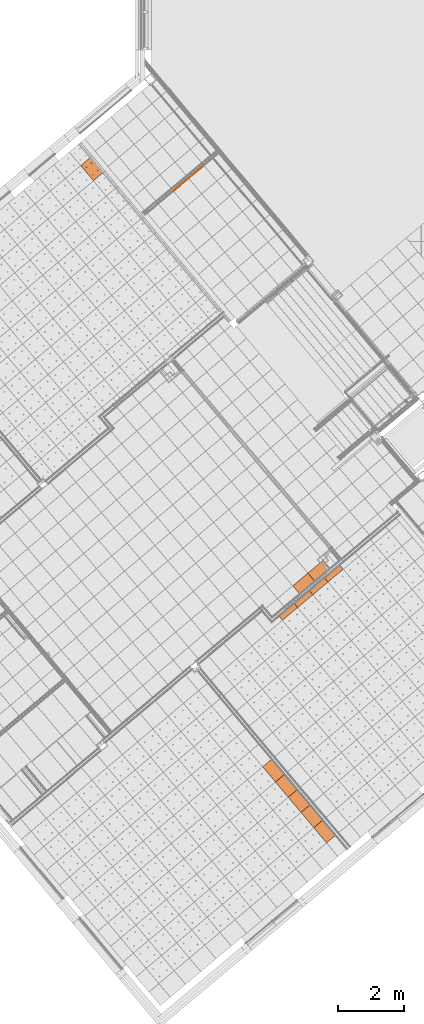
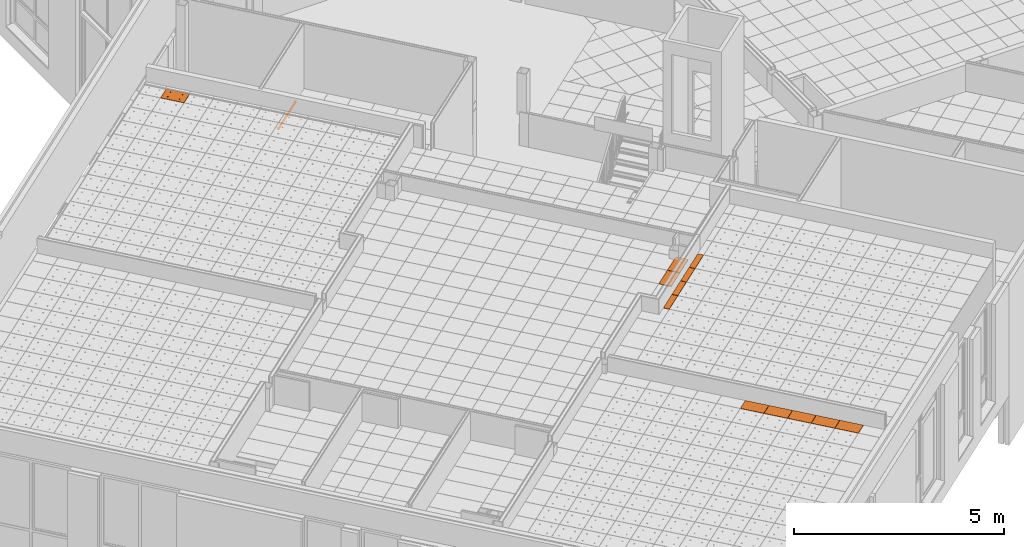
# One storey, part 213 of 338: 14 proxies, 5 elements without a shape of their own.
"""IFC2X3 building model written with IfcOpenShell, lengths in millimetres."""

import ifcopenshell
import ifcopenshell.guid

model = None  # the IFC model being written
_history = None  # IfcOwnerHistory: only IFC2X3 demands one
_inside = {}  # id of a spatial element -> (the spatial element, [elements in it])
_under = {}  # id of a project, library or spatial element -> (it, [spatial elements below it])
_declared = {}  # id of a project -> (the project, [libraries it declares])
_typed = {}  # id of a type object -> (the type object, [elements of that type])
_made_of = {}  # id of a material, layer set ... -> (it, [elements and type objects made of it])


def new_model(schema):
    """Start an empty IFC model of exactly this schema.

    Asked for "IFC4X3", IfcOpenShell would pick the latest addendum, in which some entities
    have other attributes; the version numbers below select the first issue.
    IFC2X3 requires an IfcOwnerHistory on every rooted entity: one is made here for all.
    """
    global model, _history
    if schema == "IFC4X3":
        model = ifcopenshell.file(schema_version=(4, 3, 0, 0))
    else:
        model = ifcopenshell.file(schema=schema)
    _inside.clear()
    _under.clear()
    _declared.clear()
    _typed.clear()
    _made_of.clear()
    _history = None
    if model.schema == "IFC2X3":
        org = make("IfcOrganization", Name="unknown")
        user = make(
            "IfcPersonAndOrganization",
            ThePerson=make("IfcPerson", FamilyName="unknown"),
            TheOrganization=org,
        )
        app = make(
            "IfcApplication",
            ApplicationDeveloper=org,
            Version="unknown",
            ApplicationFullName="unknown",
            ApplicationIdentifier="unknown",
        )
        _history = make(
            "IfcOwnerHistory",
            OwningUser=user,
            OwningApplication=app,
            ChangeAction="ADDED",
            CreationDate=0,
        )
    return model


def make(cls, **values):
    """One entity of the class cls with the attributes given. An attribute that is None is left unset."""
    return model.create_entity(
        cls, **{name: value for name, value in values.items() if value is not None}
    )


def entity(cls, *values):
    """Any entity or typed value of the class cls, its attributes in the order of the schema. None: left unset."""
    e = model.create_entity(cls)
    for i, value in enumerate(values):
        if value is not None:
            e[i] = value
    return e


def rooted(cls, **values):
    """An entity with a GlobalId (a new one), such as an element, a storey or a relation."""
    return make(cls, GlobalId=ifcopenshell.guid.new(), OwnerHistory=_history, **values)


def si_unit(unit_type, name, prefix=None):
    """IfcSIUnit, for example si_unit("LENGTHUNIT", "METRE", prefix="MILLI")."""
    return make("IfcSIUnit", UnitType=unit_type, Prefix=prefix, Name=name)


def converted_unit(unit_type, name, factor, base, dimensions=None, offset=None):
    """IfcConversionBasedUnit, such as the inch: factor (a typed value) times the base unit."""
    return make(
        "IfcConversionBasedUnit"
        if offset is None
        else "IfcConversionBasedUnitWithOffset",
        ConversionOffset=offset,
        Dimensions=None
        if dimensions is None
        else entity("IfcDimensionalExponents", *dimensions),
        UnitType=unit_type,
        Name=name,
        ConversionFactor=make(
            "IfcMeasureWithUnit", ValueComponent=factor, UnitComponent=base
        ),
    )


def derived_unit(unit_type, elements):
    """IfcDerivedUnit: a product of units, each with its exponent."""
    return make(
        "IfcDerivedUnit",
        Elements=[
            make("IfcDerivedUnitElement", Unit=unit, Exponent=power)
            for unit, power in elements
        ],
        UnitType=unit_type,
    )


def money_unit(currency):
    """IfcMonetaryUnit."""
    return make("IfcMonetaryUnit", Currency=currency)


def assignment(units):
    """IfcUnitAssignment: the units of a project."""
    return None if units is None else make("IfcUnitAssignment", Units=units)


def point(xyz):
    """IfcCartesianPoint."""
    return None if xyz is None else make("IfcCartesianPoint", Coordinates=xyz)


def direction(xyz):
    """IfcDirection."""
    return None if xyz is None else make("IfcDirection", DirectionRatios=xyz)


def frame(location, z_axis=None, x_axis=None):
    """IfcAxis2Placement3D, a coordinate frame: its origin and axes. An axis left out is left unset."""
    return make(
        "IfcAxis2Placement3D",
        Location=point(location),
        Axis=direction(z_axis),
        RefDirection=direction(x_axis),
    )


def origin_with_axes():
    """The frame at (0, 0, 0) with the z axis (0, 0, 1) and the x axis (1, 0, 0) written out."""
    return frame((0.0, 0.0, 0.0), z_axis=(0.0, 0.0, 1.0), x_axis=(1.0, 0.0, 0.0))


def place(relative_to, where):
    """IfcLocalPlacement: puts the frame where relative to a parent placement (None: the world)."""
    return make(
        "IfcLocalPlacement", PlacementRelTo=relative_to, RelativePlacement=where
    )


def context(
    kind, dimensions, precision=None, world=None, true_north=None, identifier=None
):
    """IfcGeometricRepresentationContext, for example the 3D "Model" context."""
    return make(
        "IfcGeometricRepresentationContext",
        ContextIdentifier=identifier,
        ContextType=kind,
        CoordinateSpaceDimension=dimensions,
        Precision=precision,
        WorldCoordinateSystem=world,
        TrueNorth=true_north,
    )


def subcontext(parent, identifier, kind, view, scale=None):
    """IfcGeometricRepresentationSubContext, for example "Body" below "Model"."""
    return make(
        "IfcGeometricRepresentationSubContext",
        ContextIdentifier=identifier,
        ContextType=kind,
        ParentContext=parent,
        TargetScale=scale,
        TargetView=view,
    )


def project(units=None, contexts=None):
    """IfcProject with its units and contexts."""
    return rooted(
        "IfcProject",
        Name="project",
        RepresentationContexts=contexts,
        UnitsInContext=assignment(units),
    )


def spatial(cls, under=None, at=None, **own):
    """A site, building, storey or space (cls), placed at a placement, below another one or the project."""
    s = rooted(cls, ObjectPlacement=at, **own)
    if under is not None:
        _under.setdefault(under.id(), (under, []))[1].append(s)
    return s


def faces_of(points, faces, orient=None, outer=None):
    """IfcFace entities. A face is a list of loops; a loop is a list of indices into points, from 0.

    orient and outer hold one flag for each loop. By default every Orientation is true, the
    first loop of a face is its IfcFaceOuterBound and the others are IfcFaceBound.
    """
    made = []
    for i, loops in enumerate(faces):
        bounds = []
        for j, loop in enumerate(loops):
            is_outer = j == 0 if outer is None else outer[i][j]
            bounds.append(
                make(
                    "IfcFaceOuterBound" if is_outer else "IfcFaceBound",
                    Bound=make("IfcPolyLoop", Polygon=[points[k] for k in loop]),
                    Orientation=True if orient is None else orient[i][j],
                )
            )
        made.append(make("IfcFace", Bounds=bounds))
    return made


def faceted_brep(points, faces, orient=None, outer=None, voids=None):
    """IfcFacetedBrep: a solid bounded by flat faces; with voids (closed shells), ...WithVoids."""
    shared = [point(p) for p in points]
    hull = make("IfcClosedShell", CfsFaces=faces_of(shared, faces, orient, outer))
    if voids is None:
        return make("IfcFacetedBrep", Outer=hull)
    return make(
        "IfcFacetedBrepWithVoids",
        Outer=hull,
        Voids=[
            make(cls, CfsFaces=faces_of(shared, fs, o, b)) for cls, fs, o, b in voids
        ],
    )


def shape(context_of_items, identifier, shape_type, items):
    """IfcShapeRepresentation: the items that make up one representation, for example the "Body"."""
    return make(
        "IfcShapeRepresentation",
        ContextOfItems=context_of_items,
        RepresentationIdentifier=identifier,
        RepresentationType=shape_type,
        Items=items,
    )


def source(mapping_origin, context_of_items, identifier, shape_type, items):
    """IfcRepresentationMap: a shape defined once, which mapped items show again and again."""
    return make(
        "IfcRepresentationMap",
        MappingOrigin=mapping_origin,
        MappedRepresentation=shape(context_of_items, identifier, shape_type, items),
    )


def transform(
    local_origin,
    x_axis=None,
    y_axis=None,
    z_axis=None,
    scale=None,
    scale2=None,
    scale3=None,
    uniform=True,
):
    """IfcCartesianTransformationOperator3D, or its non-uniform kind. x_axis, y_axis, z_axis: its Axis1, 2, 3."""
    if uniform:
        return make(
            "IfcCartesianTransformationOperator3D",
            Axis1=direction(x_axis),
            Axis2=direction(y_axis),
            LocalOrigin=point(local_origin),
            Scale=scale,
            Axis3=direction(z_axis),
        )
    return make(
        "IfcCartesianTransformationOperator3DnonUniform",
        Axis1=direction(x_axis),
        Axis2=direction(y_axis),
        LocalOrigin=point(local_origin),
        Scale=scale,
        Axis3=direction(z_axis),
        Scale2=scale2,
        Scale3=scale3,
    )


def mapped(mapping_source, mapping_target):
    """IfcMappedItem: shows the shape of a source again, moved by a transform."""
    return make(
        "IfcMappedItem", MappingSource=mapping_source, MappingTarget=mapping_target
    )


def material(Name=None, Category=None):
    """IfcMaterial."""
    return make("IfcMaterial", Name=Name, Category=Category)


def made_of(thing, what):
    """Note that an element or type object is made of a material, layer set ...; save() writes the relation."""
    if what is not None:
        _made_of.setdefault(what.id(), (what, []))[1].append(thing)
    return thing


def type_object(cls, material=None, **own):
    """A type object (cls), such as IfcWallType, which elements share."""
    return made_of(rooted(cls, **own), material)


def type_shapes(of_type, sources):
    """Give a type object the sources (RepresentationMaps) that its elements show as mapped items."""
    of_type.RepresentationMaps = sources


def element(
    cls,
    number,
    at=None,
    inside=None,
    cuts=None,
    type_object=None,
    material=None,
    context=None,
    identifier="Body",
    shape_type=None,
    held_by="IfcProductDefinitionShape",
    body=None,
    shapes=None,
    **own,
):
    """One element of the class cls, such as IfcWall. Its Tag is "e" and its number.

    at: its placement. inside: the storey or other place that contains it. cuts: it is an
    opening in that element (IfcRelVoidsElement). A single representation is given by context,
    identifier, shape_type and body (its items); several are given by shapes. held_by: the class
    of the entity that holds the representations. save() writes the other relations.
    """
    e = rooted(cls, Tag="e%d" % number, ObjectPlacement=at, **own)
    if body is not None:
        shapes = [shape(context, identifier, shape_type, body)]
    if shapes is not None:
        e.Representation = make(held_by, Representations=shapes)
    if inside is not None:
        _inside.setdefault(inside.id(), (inside, []))[1].append(e)
    if cuts is not None:
        rooted(
            "IfcRelVoidsElement", RelatingBuildingElement=cuts, RelatedOpeningElement=e
        )
    if type_object is not None:
        _typed.setdefault(type_object.id(), (type_object, []))[1].append(e)
    return made_of(e, material)


def aggregate(whole, parts):
    """IfcRelAggregates: a whole, such as a stair, and the parts it consists of."""
    return rooted("IfcRelAggregates", RelatingObject=whole, RelatedObjects=parts)


def save(model, path):
    """Write the relations noted so far, then the file.

    IfcRelAggregates (storeys below a building ...), IfcRelContainedInSpatialStructure (elements
    in a storey), IfcRelDefinesByType, IfcRelAssociatesMaterial and IfcRelDeclares: one each for
    every whole, place, type object, material and project.
    """
    for whole, parts in _under.values():
        aggregate(whole, parts)
    for where, things in _inside.values():
        rooted(
            "IfcRelContainedInSpatialStructure",
            RelatedElements=things,
            RelatingStructure=where,
        )
    for kind, things in _typed.values():
        rooted("IfcRelDefinesByType", RelatedObjects=things, RelatingType=kind)
    for what, things in _made_of.values():
        rooted("IfcRelAssociatesMaterial", RelatedObjects=things, RelatingMaterial=what)
    for by, libraries in _declared.values():
        rooted("IfcRelDeclares", RelatingContext=by, RelatedDefinitions=libraries)
    model.write(path)


model = new_model("IFC2X3")

# Units and contexts
model_context = context("Model", 3, precision=0.01, world=origin_with_axes(), true_north=direction((0.0, 1.0)))
plan_context = context("Plan", 3, precision=0.01, world=origin_with_axes(), true_north=direction((0.0, 1.0)))
body_context = subcontext(model_context, "Body", "Model", "MODEL_VIEW")
ifc_project = project(units=[si_unit("LENGTHUNIT", "METRE", prefix="MILLI"), si_unit("AREAUNIT", "SQUARE_METRE"), si_unit("VOLUMEUNIT", "CUBIC_METRE"), converted_unit("PLANEANGLEUNIT", "DEGREE", entity("IfcPlaneAngleMeasure", 0.0174532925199), si_unit("PLANEANGLEUNIT", "RADIAN"), dimensions=[0, 0, 0, 0, 0, 0, 0]), money_unit("EUR"), converted_unit("TIMEUNIT", "Year", entity("IfcTimeMeasure", 31556926.0), si_unit("TIMEUNIT", "SECOND"), dimensions=[0, 0, 1, 0, 0, 0, 0]), si_unit("MASSUNIT", "GRAM", prefix="KILO"), si_unit("THERMODYNAMICTEMPERATUREUNIT", "DEGREE_CELSIUS"), si_unit("LUMINOUSINTENSITYUNIT", "LUMEN"), si_unit("ENERGYUNIT", "JOULE", prefix="MEGA"), derived_unit("THERMALCONDUCTANCEUNIT", [(si_unit("POWERUNIT", "WATT"), 1), (si_unit("LENGTHUNIT", "METRE"), -1), (si_unit("THERMODYNAMICTEMPERATUREUNIT", "KELVIN"), -1)]), derived_unit("SPECIFICHEATCAPACITYUNIT", [(si_unit("ENERGYUNIT", "JOULE"), 1), (si_unit("MASSUNIT", "GRAM", prefix="KILO"), -1), (si_unit("THERMODYNAMICTEMPERATUREUNIT", "KELVIN"), -1)]), derived_unit("MASSDENSITYUNIT", [(si_unit("MASSUNIT", "GRAM", prefix="KILO"), 1), (si_unit("VOLUMEUNIT", "CUBIC_METRE"), -1)])], contexts=[model_context, plan_context])

# Site, building, storey
site_placement = place(None, origin_with_axes())
site = spatial("IfcSite", under=ifc_project, at=site_placement, Name="Fortuinstraat Woensdrecht", CompositionType="ELEMENT")
building_placement = place(site_placement, origin_with_axes())
building = spatial("IfcBuilding", under=site, at=building_placement, Name="IKC Fortuna", CompositionType="ELEMENT")
storey_placement = place(building_placement, origin_with_axes())
storey = spatial("IfcBuildingStorey", under=building, at=storey_placement, Name="00 begane grond", CompositionType="ELEMENT", Elevation=0.0)

# Covering, proxies
covering_type = type_object("IfcCoveringType", Name="Curtain Wall Type", PredefinedType="CEILING")
covering_1_placement = place(storey_placement, frame((17937.1227498, -4186.27868692, 4660.0), z_axis=(0.0, 0.0, 1.0), x_axis=(1.0, 0.0, 0.0)))
covering_1 = element("IfcCovering", 1, at=covering_1_placement, inside=storey, type_object=covering_type, Name="45_Plafondafwerking_P02", PredefinedType="CEILING")
ifc_material = material(Name="Gipsplaat")
building_element_proxy_type_1 = type_object("IfcBuildingElementProxyType", Name="Distinct Panel 600 x 320 x 20", PredefinedType="NOTDEFINED")
shared_shape_1 = source(origin_with_axes(), body_context, "Body", "Brep", [
    faceted_brep([(2.49999748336, 2.50000538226, -10.0), (597.49999957, 2.49999833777, -10.0), (597.49999957, 2.49999833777, 10.0), (2.49999748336, 2.50000538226, 10.0), (2.49999356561, 317.228355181, -10.0), (597.500002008, 317.228355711, -10.0), (597.500002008, 317.228355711, 10.0), (2.49999356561, 317.228355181, 10.0)], [[[0, 1, 2, 3]], [[0, 4, 5, 1]], [[1, 5, 6, 2]], [[3, 2, 6, 7]], [[4, 0, 3, 7]], [[5, 4, 7, 6]]]),
])
type_shapes(building_element_proxy_type_1, [shared_shape_1])
proxy_1_placement = place(covering_1_placement, frame((459.626567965, 385.672682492, 0.0), z_axis=(0.0, 0.0, 1.0), x_axis=(1.0, 0.0, 0.0)))
proxy_1 = element("IfcBuildingElementProxy", 2, at=proxy_1_placement, type_object=building_element_proxy_type_1, material=ifc_material, Name="__Panel-D", context=body_context, shape_type="MappedRepresentation", body=[
    mapped(shared_shape_1, transform((127.05455322, 315.299364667, 0.0), x_axis=(-0.766044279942, -0.642787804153, 0.0), y_axis=(0.642787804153, -0.766044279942, 0.0), z_axis=(0.0, 0.0, 1.0))),
])
proxy_2_placement = place(covering_1_placement, frame((919.253134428, 771.345366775, 0.0), z_axis=(0.0, 0.0, 1.0), x_axis=(1.0, 0.0, 0.0)))
proxy_2 = element("IfcBuildingElementProxy", 3, at=proxy_2_placement, type_object=building_element_proxy_type_1, material=ifc_material, Name="__Panel-D", context=body_context, shape_type="MappedRepresentation", body=[
    mapped(shared_shape_1, transform((127.054554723, 315.299362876, 0.0), x_axis=(-0.766044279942, -0.642787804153, 0.0), y_axis=(0.642787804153, -0.766044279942, 0.0), z_axis=(0.0, 0.0, 1.0))),
])
aggregate(covering_1, [proxy_1, proxy_2])

covering_2_placement = place(storey_placement, frame((15581.2998521, 5435.5548951, 3210.0), z_axis=(0.0, 0.0, 1.0), x_axis=(1.0, 0.0, 0.0)))
covering_2 = element("IfcCovering", 4, at=covering_2_placement, inside=storey, type_object=covering_type, Name="45_Plafondafwerking_P02 v", PredefinedType="CEILING")
building_element_proxy_type_2 = type_object("IfcBuildingElementProxyType", Name="Distinct Panel 600 x 12 x 20", PredefinedType="NOTDEFINED")
shared_shape_2 = source(origin_with_axes(), body_context, "Body", "Brep", [
    faceted_brep([(-597.499999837, 590.45458423, -10.0), (-597.499999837, 590.45458423, 10.0), (-597.499997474, 597.499999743, 10.0), (-597.499997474, 597.499999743, -10.0), (-2.50000445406, 590.454582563, -10.0), (-2.50000445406, 590.454582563, 10.0), (-2.50000209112, 597.499998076, 10.0), (-2.50000209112, 597.499998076, -10.0)], [[[0, 1, 2, 3]], [[4, 5, 1, 0]], [[1, 5, 6, 2]], [[3, 2, 6, 7]], [[0, 3, 7, 4]], [[7, 6, 5, 4]]]),
])
type_shapes(building_element_proxy_type_2, [shared_shape_2])
proxy_3_placement = place(covering_2_placement, frame((-881.524288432, 2792.77528629, 0.0), z_axis=(0.0, 0.0, 1.0), x_axis=(1.0, 0.0, 0.0)))
proxy_3 = element("IfcBuildingElementProxy", 5, at=proxy_3_placement, type_object=building_element_proxy_type_2, material=ifc_material, Name="__Panel-D", context=body_context, shape_type="MappedRepresentation", body=[
    mapped(shared_shape_2, transform((-611.614626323, 262.176638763, 0.0), x_axis=(-0.766044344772, -0.642787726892, 0.0), y_axis=(0.642787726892, -0.766044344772, 0.0), z_axis=(0.0, 0.0, 1.0))),
])
proxy_4_placement = place(covering_2_placement, frame((-421.897681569, 3178.44792243, 0.0), z_axis=(0.0, 0.0, 1.0), x_axis=(1.0, 0.0, 0.0)))
proxy_4 = element("IfcBuildingElementProxy", 6, at=proxy_4_placement, type_object=building_element_proxy_type_2, material=ifc_material, Name="__Panel-D", context=body_context, shape_type="MappedRepresentation", body=[
    mapped(shared_shape_2, transform((-611.614626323, 262.176638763, 0.0), x_axis=(-0.766044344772, -0.642787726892, 0.0), y_axis=(0.642787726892, -0.766044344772, 0.0), z_axis=(0.0, 0.0, 1.0))),
])
aggregate(covering_2, [proxy_3, proxy_4])

# Covering, proxy
covering_3_placement = place(storey_placement, frame((15863.124366, 4456.31398675, 4619.99995334), z_axis=(0.0, 0.0, 1.0), x_axis=(1.0, 0.0, 0.0)))
covering_3 = element("IfcCovering", 7, at=covering_3_placement, inside=storey, type_object=covering_type, Name="45_Plafondafwerking_P01", PredefinedType="CEILING")
building_element_proxy_type_3 = type_object("IfcBuildingElementProxyType", Name="Main Panel 401 x 600 x 20", PredefinedType="NOTDEFINED")
shared_shape_3 = source(origin_with_axes(), body_context, "Body", "Brep", [
    faceted_brep([(2.49999200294, 2.49999800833, -10.0), (200.390796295, 2.49999800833, -10.0), (200.390796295, 2.49999800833, 10.0), (2.49999200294, 2.49999800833, 10.0), (2.49999200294, 299.999999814, -10.0), (2.49999200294, 597.50000162, -10.0), (200.390796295, 597.50000162, -10.0), (398.281600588, 597.50000162, -10.0), (398.281600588, 299.999999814, -10.0), (398.281600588, 2.49999800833, -10.0), (111.423081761, 450.062330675, -10.0), (111.119914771, 452.647116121, -10.0), (110.522792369, 455.113489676, -10.0), (109.649857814, 457.38651185, -10.0), (108.527634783, 459.397117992, -10.0), (107.190221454, 461.084216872, -10.0), (105.678254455, 462.39654683, -10.0), (104.037674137, 463.294233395, -10.0), (102.318328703, 463.750000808, -10.0), (100.572459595, 463.750000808, -10.0), (98.8531141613, 463.294233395, -10.0), (97.212533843, 462.39654683, -10.0), (95.7005668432, 461.084216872, -10.0), (94.3631535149, 459.397117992, -10.0), (93.240930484, 457.38651185, -10.0), (92.3679959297, 455.113489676, -10.0), (91.7708735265, 452.647116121, -10.0), (91.4677065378, 450.062330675, -10.0), (91.4677065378, 448.750000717, -10.0), (91.4677065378, 447.437670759, -10.0), (91.7708735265, 444.852885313, -10.0), (92.3679959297, 442.386511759, -10.0), (93.240930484, 440.113489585, -10.0), (94.3631535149, 438.102883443, -10.0), (95.7005668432, 436.415784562, -10.0), (97.212533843, 435.103454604, -10.0), (98.8531141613, 434.205768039, -10.0), (100.572459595, 433.750000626, -10.0), (102.318328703, 433.750000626, -10.0), (104.037674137, 434.205768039, -10.0), (105.678254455, 435.103454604, -10.0), (107.190221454, 436.415784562, -10.0), (108.527634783, 438.102883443, -10.0), (109.649857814, 440.113489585, -10.0), (110.522792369, 442.386511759, -10.0), (111.119914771, 444.852885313, -10.0), (111.423081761, 447.437670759, -10.0), (309.313886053, 450.062330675, -10.0), (309.010719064, 452.647116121, -10.0), (308.413596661, 455.113489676, -10.0), (307.540662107, 457.38651185, -10.0), (306.418439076, 459.397117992, -10.0), (305.081025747, 461.084216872, -10.0), (303.569058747, 462.39654683, -10.0), (301.928478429, 463.294233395, -10.0), (300.209132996, 463.750000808, -10.0), (298.463263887, 463.750000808, -10.0), (296.743918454, 463.294233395, -10.0), (295.103338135, 462.39654683, -10.0), (293.591371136, 461.084216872, -10.0), (292.253957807, 459.397117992, -10.0), (291.131734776, 457.38651185, -10.0), (290.258800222, 455.113489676, -10.0), (289.661677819, 452.647116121, -10.0), (289.35851083, 450.062330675, -10.0), (289.35851083, 448.750000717, -10.0), (289.35851083, 447.437670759, -10.0), (289.661677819, 444.852885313, -10.0), (290.258800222, 442.386511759, -10.0), (291.131734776, 440.113489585, -10.0), (292.253957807, 438.102883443, -10.0), (293.591371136, 436.415784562, -10.0), (295.103338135, 435.103454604, -10.0), (296.743918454, 434.205768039, -10.0), (298.463263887, 433.750000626, -10.0), (300.209132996, 433.750000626, -10.0), (301.928478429, 434.205768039, -10.0), (303.569058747, 435.103454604, -10.0), (305.081025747, 436.415784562, -10.0), (306.418439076, 438.102883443, -10.0), (307.540662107, 440.113489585, -10.0), (308.413596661, 442.386511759, -10.0), (309.010719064, 444.852885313, -10.0), (309.313886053, 447.437670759, -10.0), (309.313886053, 152.562328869, -10.0), (309.010719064, 155.147114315, -10.0), (308.413596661, 157.61348787, -10.0), (307.540662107, 159.886510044, -10.0), (306.418439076, 161.897116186, -10.0), (305.081025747, 163.584215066, -10.0), (303.569058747, 164.896545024, -10.0), (301.928478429, 165.79423159, -10.0), (300.209132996, 166.249999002, -10.0), (298.463263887, 166.249999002, -10.0), (296.743918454, 165.79423159, -10.0), (295.103338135, 164.896545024, -10.0), (293.591371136, 163.584215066, -10.0), (292.253957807, 161.897116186, -10.0), (291.131734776, 159.886510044, -10.0), (290.258800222, 157.61348787, -10.0), (289.661677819, 155.147114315, -10.0), (289.35851083, 152.562328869, -10.0), (289.35851083, 151.249998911, -10.0), (289.35851083, 149.937668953, -10.0), (289.661677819, 147.352883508, -10.0), (290.258800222, 144.886509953, -10.0), (291.131734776, 142.613487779, -10.0), (292.253957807, 140.602881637, -10.0), (293.591371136, 138.915782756, -10.0), (295.103338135, 137.603452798, -10.0), (296.743918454, 136.705766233, -10.0), (298.463263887, 136.24999882, -10.0), (300.209132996, 136.24999882, -10.0), (301.928478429, 136.705766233, -10.0), (303.569058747, 137.603452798, -10.0), (305.081025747, 138.915782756, -10.0), (306.418439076, 140.602881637, -10.0), (307.540662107, 142.613487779, -10.0), (308.413596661, 144.886509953, -10.0), (309.010719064, 147.352883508, -10.0), (309.313886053, 149.937668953, -10.0), (111.423081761, 152.562328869, -10.0), (111.119914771, 155.147114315, -10.0), (110.522792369, 157.61348787, -10.0), (109.649857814, 159.886510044, -10.0), (108.527634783, 161.897116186, -10.0), (107.190221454, 163.584215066, -10.0), (105.678254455, 164.896545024, -10.0), (104.037674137, 165.79423159, -10.0), (102.318328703, 166.249999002, -10.0), (100.572459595, 166.249999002, -10.0), (98.8531141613, 165.79423159, -10.0), (97.212533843, 164.896545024, -10.0), (95.7005668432, 163.584215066, -10.0), (94.3631535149, 161.897116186, -10.0), (93.240930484, 159.886510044, -10.0), (92.3679959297, 157.61348787, -10.0), (91.7708735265, 155.147114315, -10.0), (91.4677065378, 152.562328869, -10.0), (91.4677065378, 151.249998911, -10.0), (91.4677065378, 149.937668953, -10.0), (91.7708735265, 147.352883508, -10.0), (92.3679959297, 144.886509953, -10.0), (93.240930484, 142.613487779, -10.0), (94.3631535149, 140.602881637, -10.0), (95.7005668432, 138.915782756, -10.0), (97.212533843, 137.603452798, -10.0), (98.8531141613, 136.705766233, -10.0), (100.572459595, 136.24999882, -10.0), (102.318328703, 136.24999882, -10.0), (104.037674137, 136.705766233, -10.0), (105.678254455, 137.603452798, -10.0), (107.190221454, 138.915782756, -10.0), (108.527634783, 140.602881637, -10.0), (109.649857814, 142.613487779, -10.0), (110.522792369, 144.886509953, -10.0), (111.119914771, 147.352883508, -10.0), (111.423081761, 149.937668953, -10.0), (398.281600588, 2.49999800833, 10.0), (398.281600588, 299.999999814, 10.0), (398.281600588, 597.50000162, 10.0), (200.390796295, 597.50000162, 10.0), (2.49999200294, 597.50000162, 10.0), (2.49999200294, 299.999999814, 10.0), (111.423081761, 450.062330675, 10.0), (111.423081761, 447.437670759, 10.0), (111.119914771, 444.852885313, 10.0), (110.522792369, 442.386511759, 10.0), (109.649857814, 440.113489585, 10.0), (108.527634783, 438.102883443, 10.0), (107.190221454, 436.415784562, 10.0), (105.678254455, 435.103454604, 10.0), (104.037674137, 434.205768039, 10.0), (102.318328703, 433.750000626, 10.0), (100.572459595, 433.750000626, 10.0), (98.8531141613, 434.205768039, 10.0), (97.212533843, 435.103454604, 10.0), (95.7005668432, 436.415784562, 10.0), (94.3631535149, 438.102883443, 10.0), (93.240930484, 440.113489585, 10.0), (92.3679959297, 442.386511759, 10.0), (91.7708735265, 444.852885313, 10.0), (91.4677065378, 447.437670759, 10.0), (91.4677065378, 448.750000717, 10.0), (91.4677065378, 450.062330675, 10.0), (91.7708735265, 452.647116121, 10.0), (92.3679959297, 455.113489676, 10.0), (93.240930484, 457.38651185, 10.0), (94.3631535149, 459.397117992, 10.0), (95.7005668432, 461.084216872, 10.0), (97.212533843, 462.39654683, 10.0), (98.8531141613, 463.294233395, 10.0), (100.572459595, 463.750000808, 10.0), (102.318328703, 463.750000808, 10.0), (104.037674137, 463.294233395, 10.0), (105.678254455, 462.39654683, 10.0), (107.190221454, 461.084216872, 10.0), (108.527634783, 459.397117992, 10.0), (109.649857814, 457.38651185, 10.0), (110.522792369, 455.113489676, 10.0), (111.119914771, 452.647116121, 10.0), (309.313886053, 450.062330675, 10.0), (309.313886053, 447.437670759, 10.0), (309.010719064, 444.852885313, 10.0), (308.413596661, 442.386511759, 10.0), (307.540662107, 440.113489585, 10.0), (306.418439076, 438.102883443, 10.0), (305.081025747, 436.415784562, 10.0), (303.569058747, 435.103454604, 10.0), (301.928478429, 434.205768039, 10.0), (300.209132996, 433.750000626, 10.0), (298.463263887, 433.750000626, 10.0), (296.743918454, 434.205768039, 10.0), (295.103338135, 435.103454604, 10.0), (293.591371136, 436.415784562, 10.0), (292.253957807, 438.102883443, 10.0), (291.131734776, 440.113489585, 10.0), (290.258800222, 442.386511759, 10.0), (289.661677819, 444.852885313, 10.0), (289.35851083, 447.437670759, 10.0), (289.35851083, 448.750000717, 10.0), (289.35851083, 450.062330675, 10.0), (289.661677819, 452.647116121, 10.0), (290.258800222, 455.113489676, 10.0), (291.131734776, 457.38651185, 10.0), (292.253957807, 459.397117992, 10.0), (293.591371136, 461.084216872, 10.0), (295.103338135, 462.39654683, 10.0), (296.743918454, 463.294233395, 10.0), (298.463263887, 463.750000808, 10.0), (300.209132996, 463.750000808, 10.0), (301.928478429, 463.294233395, 10.0), (303.569058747, 462.39654683, 10.0), (305.081025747, 461.084216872, 10.0), (306.418439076, 459.397117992, 10.0), (307.540662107, 457.38651185, 10.0), (308.413596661, 455.113489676, 10.0), (309.010719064, 452.647116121, 10.0), (309.313886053, 152.562328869, 10.0), (309.313886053, 149.937668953, 10.0), (309.010719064, 147.352883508, 10.0), (308.413596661, 144.886509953, 10.0), (307.540662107, 142.613487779, 10.0), (306.418439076, 140.602881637, 10.0), (305.081025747, 138.915782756, 10.0), (303.569058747, 137.603452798, 10.0), (301.928478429, 136.705766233, 10.0), (300.209132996, 136.24999882, 10.0), (298.463263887, 136.24999882, 10.0), (296.743918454, 136.705766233, 10.0), (295.103338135, 137.603452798, 10.0), (293.591371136, 138.915782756, 10.0), (292.253957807, 140.602881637, 10.0), (291.131734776, 142.613487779, 10.0), (290.258800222, 144.886509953, 10.0), (289.661677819, 147.352883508, 10.0), (289.35851083, 149.937668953, 10.0), (289.35851083, 151.249998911, 10.0), (289.35851083, 152.562328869, 10.0), (289.661677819, 155.147114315, 10.0), (290.258800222, 157.61348787, 10.0), (291.131734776, 159.886510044, 10.0), (292.253957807, 161.897116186, 10.0), (293.591371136, 163.584215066, 10.0), (295.103338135, 164.896545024, 10.0), (296.743918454, 165.79423159, 10.0), (298.463263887, 166.249999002, 10.0), (300.209132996, 166.249999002, 10.0), (301.928478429, 165.79423159, 10.0), (303.569058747, 164.896545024, 10.0), (305.081025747, 163.584215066, 10.0), (306.418439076, 161.897116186, 10.0), (307.540662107, 159.886510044, 10.0), (308.413596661, 157.61348787, 10.0), (309.010719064, 155.147114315, 10.0), (111.423081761, 152.562328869, 10.0), (111.423081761, 149.937668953, 10.0), (111.119914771, 147.352883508, 10.0), (110.522792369, 144.886509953, 10.0), (109.649857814, 142.613487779, 10.0), (108.527634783, 140.602881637, 10.0), (107.190221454, 138.915782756, 10.0), (105.678254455, 137.603452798, 10.0), (104.037674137, 136.705766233, 10.0), (102.318328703, 136.24999882, 10.0), (100.572459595, 136.24999882, 10.0), (98.8531141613, 136.705766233, 10.0), (97.212533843, 137.603452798, 10.0), (95.7005668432, 138.915782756, 10.0), (94.3631535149, 140.602881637, 10.0), (93.240930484, 142.613487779, 10.0), (92.3679959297, 144.886509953, 10.0), (91.7708735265, 147.352883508, 10.0), (91.4677065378, 149.937668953, 10.0), (91.4677065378, 151.249998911, 10.0), (91.4677065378, 152.562328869, 10.0), (91.7708735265, 155.147114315, 10.0), (92.3679959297, 157.61348787, 10.0), (93.240930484, 159.886510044, 10.0), (94.3631535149, 161.897116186, 10.0), (95.7005668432, 163.584215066, 10.0), (97.212533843, 164.896545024, 10.0), (98.8531141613, 165.79423159, 10.0), (100.572459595, 166.249999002, 10.0), (102.318328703, 166.249999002, 10.0), (104.037674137, 165.79423159, 10.0), (105.678254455, 164.896545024, 10.0), (107.190221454, 163.584215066, 10.0), (108.527634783, 161.897116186, 10.0), (109.649857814, 159.886510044, 10.0), (110.522792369, 157.61348787, 10.0), (111.119914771, 155.147114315, 10.0)], [[[0, 1, 2, 3]], [[0, 4, 5, 6, 7, 8, 9, 1], [10, 11, 12, 13, 14, 15, 16, 17, 18, 19, 20, 21, 22, 23, 24, 25, 26, 27, 28, 29, 30, 31, 32, 33, 34, 35, 36, 37, 38, 39, 40, 41, 42, 43, 44, 45, 46], [47, 48, 49, 50, 51, 52, 53, 54, 55, 56, 57, 58, 59, 60, 61, 62, 63, 64, 65, 66, 67, 68, 69, 70, 71, 72, 73, 74, 75, 76, 77, 78, 79, 80, 81, 82, 83], [84, 85, 86, 87, 88, 89, 90, 91, 92, 93, 94, 95, 96, 97, 98, 99, 100, 101, 102, 103, 104, 105, 106, 107, 108, 109, 110, 111, 112, 113, 114, 115, 116, 117, 118, 119, 120], [121, 122, 123, 124, 125, 126, 127, 128, 129, 130, 131, 132, 133, 134, 135, 136, 137, 138, 139, 140, 141, 142, 143, 144, 145, 146, 147, 148, 149, 150, 151, 152, 153, 154, 155, 156, 157]], [[1, 9, 158, 2]], [[3, 2, 158, 159, 160, 161, 162, 163], [164, 165, 166, 167, 168, 169, 170, 171, 172, 173, 174, 175, 176, 177, 178, 179, 180, 181, 182, 183, 184, 185, 186, 187, 188, 189, 190, 191, 192, 193, 194, 195, 196, 197, 198, 199, 200], [201, 202, 203, 204, 205, 206, 207, 208, 209, 210, 211, 212, 213, 214, 215, 216, 217, 218, 219, 220, 221, 222, 223, 224, 225, 226, 227, 228, 229, 230, 231, 232, 233, 234, 235, 236, 237], [238, 239, 240, 241, 242, 243, 244, 245, 246, 247, 248, 249, 250, 251, 252, 253, 254, 255, 256, 257, 258, 259, 260, 261, 262, 263, 264, 265, 266, 267, 268, 269, 270, 271, 272, 273, 274], [275, 276, 277, 278, 279, 280, 281, 282, 283, 284, 285, 286, 287, 288, 289, 290, 291, 292, 293, 294, 295, 296, 297, 298, 299, 300, 301, 302, 303, 304, 305, 306, 307, 308, 309, 310, 311]], [[4, 0, 3, 163]], [[5, 4, 163, 162]], [[6, 5, 162, 161]], [[7, 6, 161, 160]], [[8, 7, 160, 159]], [[9, 8, 159, 158]], [[11, 10, 164, 200]], [[12, 11, 200, 199]], [[13, 12, 199, 198]], [[14, 13, 198, 197]], [[15, 14, 197, 196]], [[16, 15, 196, 195]], [[17, 16, 195, 194]], [[18, 17, 194, 193]], [[19, 18, 193, 192]], [[20, 19, 192, 191]], [[21, 20, 191, 190]], [[22, 21, 190, 189]], [[23, 22, 189, 188]], [[24, 23, 188, 187]], [[25, 24, 187, 186]], [[26, 25, 186, 185]], [[27, 26, 185, 184]], [[28, 27, 184, 183]], [[29, 28, 183, 182]], [[30, 29, 182, 181]], [[31, 30, 181, 180]], [[32, 31, 180, 179]], [[33, 32, 179, 178]], [[34, 33, 178, 177]], [[35, 34, 177, 176]], [[36, 35, 176, 175]], [[37, 36, 175, 174]], [[38, 37, 174, 173]], [[39, 38, 173, 172]], [[40, 39, 172, 171]], [[41, 40, 171, 170]], [[42, 41, 170, 169]], [[43, 42, 169, 168]], [[44, 43, 168, 167]], [[45, 44, 167, 166]], [[46, 45, 166, 165]], [[10, 46, 165, 164]], [[48, 47, 201, 237]], [[49, 48, 237, 236]], [[50, 49, 236, 235]], [[51, 50, 235, 234]], [[52, 51, 234, 233]], [[53, 52, 233, 232]], [[54, 53, 232, 231]], [[55, 54, 231, 230]], [[56, 55, 230, 229]], [[57, 56, 229, 228]], [[58, 57, 228, 227]], [[59, 58, 227, 226]], [[60, 59, 226, 225]], [[61, 60, 225, 224]], [[62, 61, 224, 223]], [[63, 62, 223, 222]], [[64, 63, 222, 221]], [[65, 64, 221, 220]], [[66, 65, 220, 219]], [[67, 66, 219, 218]], [[68, 67, 218, 217]], [[69, 68, 217, 216]], [[70, 69, 216, 215]], [[71, 70, 215, 214]], [[72, 71, 214, 213]], [[73, 72, 213, 212]], [[74, 73, 212, 211]], [[75, 74, 211, 210]], [[76, 75, 210, 209]], [[77, 76, 209, 208]], [[78, 77, 208, 207]], [[79, 78, 207, 206]], [[80, 79, 206, 205]], [[81, 80, 205, 204]], [[82, 81, 204, 203]], [[83, 82, 203, 202]], [[47, 83, 202, 201]], [[85, 84, 238, 274]], [[86, 85, 274, 273]], [[87, 86, 273, 272]], [[88, 87, 272, 271]], [[89, 88, 271, 270]], [[90, 89, 270, 269]], [[91, 90, 269, 268]], [[92, 91, 268, 267]], [[93, 92, 267, 266]], [[94, 93, 266, 265]], [[95, 94, 265, 264]], [[96, 95, 264, 263]], [[97, 96, 263, 262]], [[98, 97, 262, 261]], [[99, 98, 261, 260]], [[100, 99, 260, 259]], [[101, 100, 259, 258]], [[102, 101, 258, 257]], [[103, 102, 257, 256]], [[104, 103, 256, 255]], [[105, 104, 255, 254]], [[106, 105, 254, 253]], [[107, 106, 253, 252]], [[108, 107, 252, 251]], [[109, 108, 251, 250]], [[110, 109, 250, 249]], [[111, 110, 249, 248]], [[112, 111, 248, 247]], [[113, 112, 247, 246]], [[114, 113, 246, 245]], [[115, 114, 245, 244]], [[116, 115, 244, 243]], [[117, 116, 243, 242]], [[118, 117, 242, 241]], [[119, 118, 241, 240]], [[120, 119, 240, 239]], [[84, 120, 239, 238]], [[122, 121, 275, 311]], [[123, 122, 311, 310]], [[124, 123, 310, 309]], [[125, 124, 309, 308]], [[126, 125, 308, 307]], [[127, 126, 307, 306]], [[128, 127, 306, 305]], [[129, 128, 305, 304]], [[130, 129, 304, 303]], [[131, 130, 303, 302]], [[132, 131, 302, 301]], [[133, 132, 301, 300]], [[134, 133, 300, 299]], [[135, 134, 299, 298]], [[136, 135, 298, 297]], [[137, 136, 297, 296]], [[138, 137, 296, 295]], [[139, 138, 295, 294]], [[140, 139, 294, 293]], [[141, 140, 293, 292]], [[142, 141, 292, 291]], [[143, 142, 291, 290]], [[144, 143, 290, 289]], [[145, 144, 289, 288]], [[146, 145, 288, 287]], [[147, 146, 287, 286]], [[148, 147, 286, 285]], [[149, 148, 285, 284]], [[150, 149, 284, 283]], [[151, 150, 283, 282]], [[152, 151, 282, 281]], [[153, 152, 281, 280]], [[154, 153, 280, 279]], [[155, 154, 279, 278]], [[156, 155, 278, 277]], [[157, 156, 277, 276]], [[121, 157, 276, 275]]]),
])
type_shapes(building_element_proxy_type_3, [shared_shape_3])
proxy_5_placement = place(covering_3_placement, frame((-3849.70510187, 4251.38845299, 1.08315923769), z_axis=(0.0, 0.0, 1.0), x_axis=(0.642787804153, -0.766044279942, 0.0)))
proxy_5 = element("IfcBuildingElementProxy", 8, at=proxy_5_placement, type_object=building_element_proxy_type_3, material=ifc_material, Name="__600x944 Rockfon Krios", context=body_context, shape_type="MappedRepresentation", body=[
    mapped(shared_shape_3, transform((-300.0, 200.387875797, -1.08311258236), x_axis=(0.0, -0.999985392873, 0.00540500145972), y_axis=(1.0, 0.0, 0.0), z_axis=(0.0, 0.00540500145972, 0.999985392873))),
])
aggregate(covering_3, [proxy_5])

# Covering, proxies
covering_4_placement = place(storey_placement, frame((15150.6418133, -6622.13986243, 4660.0), z_axis=(0.0, 0.0, 1.0), x_axis=(1.0, 0.0, 0.0)))
covering_4 = element("IfcCovering", 9, at=covering_4_placement, inside=storey, type_object=covering_type, Name="45_Plafondafwerking_P01", PredefinedType="CEILING")
building_element_proxy_type_4 = type_object("IfcBuildingElementProxyType", Name="356 x 600 x 20", PredefinedType="NOTDEFINED")
shared_shape_4 = source(origin_with_axes(), body_context, "Body", "Brep", [
    faceted_brep([(246.997827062, 2.50000303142, -10.0), (597.499992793, 2.49999403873, -10.0), (597.499992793, 2.49999403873, 10.0), (246.997827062, 2.50000303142, 10.0), (246.997828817, 597.499998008, -10.0), (597.500001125, 597.499996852, -10.0), (597.500001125, 597.499996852, 10.0), (246.997828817, 597.499998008, 10.0)], [[[0, 1, 2, 3]], [[0, 4, 5, 1]], [[1, 5, 6, 2]], [[3, 2, 6, 7]], [[4, 0, 3, 7]], [[5, 4, 7, 6]]]),
])
proxy_6_placement = place(covering_4_placement, frame((3492.01062902, -4203.90488753, 0.0), z_axis=(0.0, 0.0, 1.0), x_axis=(1.0, 0.0, 0.0)))
proxy_6 = element("IfcBuildingElementProxy", 10, at=proxy_6_placement, type_object=building_element_proxy_type_4, material=ifc_material, Name="__600x617 Rockfon Krios", context=body_context, shape_type="MappedRepresentation", body=[
    mapped(shared_shape_4, transform((130.62502513, 501.229737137, 0.0), x_axis=(-0.766044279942, -0.642787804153, 0.0), y_axis=(0.642787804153, -0.766044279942, 0.0), z_axis=(0.0, 0.0, 1.0))),
])
proxy_7_placement = place(covering_4_placement, frame((3877.68331151, -4663.5314555, 0.0), z_axis=(0.0, 0.0, 1.0), x_axis=(1.0, 0.0, 0.0)))
proxy_7 = element("IfcBuildingElementProxy", 11, at=proxy_7_placement, type_object=building_element_proxy_type_4, material=ifc_material, Name="__600x620 Rockfon Krios", context=body_context, shape_type="MappedRepresentation", body=[
    mapped(shared_shape_4, transform((130.62502513, 501.229737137, 0.0), x_axis=(-0.766044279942, -0.642787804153, 0.0), y_axis=(0.642787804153, -0.766044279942, 0.0), z_axis=(0.0, 0.0, 1.0))),
])
shared_shape_5 = source(origin_with_axes(), body_context, "Body", "Brep", [
    faceted_brep([(246.997828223, 2.50000441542, -10.0), (597.499993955, 2.49999542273, -10.0), (597.499993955, 2.49999542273, 10.0), (246.997828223, 2.50000441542, 10.0), (246.997829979, 597.499999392, -10.0), (597.500002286, 597.499998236, -10.0), (597.500002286, 597.499998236, 10.0), (246.997829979, 597.499999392, 10.0)], [[[0, 1, 2, 3]], [[0, 4, 5, 1]], [[1, 5, 6, 2]], [[3, 2, 6, 7]], [[4, 0, 3, 7]], [[5, 4, 7, 6]]]),
])
type_shapes(building_element_proxy_type_4, [shared_shape_4, shared_shape_5])
proxy_8_placement = place(covering_4_placement, frame((2720.66526403, -3284.6517516, 0.0), z_axis=(0.0, 0.0, 1.0), x_axis=(1.0, 0.0, 0.0)))
proxy_8 = element("IfcBuildingElementProxy", 12, at=proxy_8_placement, type_object=building_element_proxy_type_4, material=ifc_material, Name="__600x629 Rockfon Krios", context=body_context, shape_type="MappedRepresentation", body=[
    mapped(shared_shape_5, transform((130.62502513, 501.229737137, 0.0), x_axis=(-0.766044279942, -0.642787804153, 0.0), y_axis=(0.642787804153, -0.766044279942, 0.0), z_axis=(0.0, 0.0, 1.0))),
])
proxy_9_placement = place(covering_4_placement, frame((3106.33794653, -3744.27831957, 0.0), z_axis=(0.0, 0.0, 1.0), x_axis=(1.0, 0.0, 0.0)))
proxy_9 = element("IfcBuildingElementProxy", 13, at=proxy_9_placement, type_object=building_element_proxy_type_4, material=ifc_material, Name="__600x725 Rockfon Krios", context=body_context, shape_type="MappedRepresentation", body=[
    mapped(shared_shape_5, transform((130.62502513, 501.229737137, 0.0), x_axis=(-0.766044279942, -0.642787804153, 0.0), y_axis=(0.642787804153, -0.766044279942, 0.0), z_axis=(0.0, 0.0, 1.0))),
])
proxy_10_placement = place(covering_4_placement, frame((2334.99258154, -2825.02518363, 0.0), z_axis=(0.0, 0.0, 1.0), x_axis=(1.0, 0.0, 0.0)))
proxy_10 = element("IfcBuildingElementProxy", 14, at=proxy_10_placement, type_object=building_element_proxy_type_4, material=ifc_material, Name="__600x761 Rockfon Krios", context=body_context, shape_type="MappedRepresentation", body=[
    mapped(shared_shape_5, transform((130.62502513, 501.229737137, 0.0), x_axis=(-0.766044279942, -0.642787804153, 0.0), y_axis=(0.642787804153, -0.766044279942, 0.0), z_axis=(0.0, 0.0, 1.0))),
])
aggregate(covering_4, [proxy_6, proxy_7, proxy_8, proxy_9, proxy_10])

covering_5_placement = place(storey_placement, frame((19785.7448517, -11392.5753808, 4660.0), z_axis=(0.0, 0.0, 1.0), x_axis=(1.0, 0.0, 0.0)))
covering_5 = element("IfcCovering", 15, at=covering_5_placement, inside=storey, type_object=covering_type, Name="45_Plafondafwerking_P01", PredefinedType="CEILING")
building_element_proxy_type_5 = type_object("IfcBuildingElementProxyType", Name="600 x 155 x 20", PredefinedType="NOTDEFINED")
shared_shape_6 = source(origin_with_axes(), body_context, "Body", "Brep", [
    faceted_brep([(2.50000160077, 447.501420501, -10.0), (597.499995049, 447.501420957, -10.0), (597.499995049, 447.501420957, 10.0), (2.50000160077, 447.501420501, 10.0), (2.50000666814, 597.500000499, -10.0), (597.500000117, 597.500000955, -10.0), (597.500000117, 597.500000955, 10.0), (2.50000666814, 597.500000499, 10.0)], [[[0, 1, 2, 3]], [[0, 4, 5, 1]], [[1, 5, 6, 2]], [[3, 2, 6, 7]], [[4, 0, 3, 7]], [[5, 4, 7, 6]]]),
])
type_shapes(building_element_proxy_type_5, [shared_shape_6])
proxy_11_placement = place(covering_5_placement, frame((-931.808592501, 7502.56314961, 1.02140518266e-10), z_axis=(0.0, 0.0, 1.0), x_axis=(1.0, 0.0, 0.0)))
proxy_11 = element("IfcBuildingElementProxy", 16, at=proxy_11_placement, type_object=building_element_proxy_type_5, material=ifc_material, Name="__600x602 Rockfon Krios", context=body_context, shape_type="MappedRepresentation", body=[
    mapped(shared_shape_6, transform((-106.043798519, 593.095019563, 0.0), x_axis=(-0.766044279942, -0.642787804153, 0.0), y_axis=(0.642787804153, -0.766044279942, 0.0), z_axis=(0.0, 0.0, 1.0))),
])
proxy_12_placement = place(covering_5_placement, frame((-472.182024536, 7888.2358321, 0.0), z_axis=(0.0, 0.0, 1.0), x_axis=(1.0, 0.0, 0.0)))
proxy_12 = element("IfcBuildingElementProxy", 17, at=proxy_12_placement, type_object=building_element_proxy_type_5, material=ifc_material, Name="__600x620 Rockfon Krios", context=body_context, shape_type="MappedRepresentation", body=[
    mapped(shared_shape_6, transform((-106.043798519, 593.095019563, 0.0), x_axis=(-0.766044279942, -0.642787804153, 0.0), y_axis=(0.642787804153, -0.766044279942, 0.0), z_axis=(0.0, 0.0, 1.0))),
])
proxy_13_placement = place(covering_5_placement, frame((-1391.43516047, 7116.89046712, 1.21680443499e-10), z_axis=(0.0, 0.0, 1.0), x_axis=(1.0, 0.0, 0.0)))
proxy_13 = element("IfcBuildingElementProxy", 18, at=proxy_13_placement, type_object=building_element_proxy_type_5, material=ifc_material, Name="__600x666 Rockfon Krios", context=body_context, shape_type="MappedRepresentation", body=[
    mapped(shared_shape_6, transform((-106.043798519, 593.095019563, 0.0), x_axis=(-0.766044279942, -0.642787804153, 0.0), y_axis=(0.642787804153, -0.766044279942, 0.0), z_axis=(0.0, 0.0, 1.0))),
])
proxy_14_placement = place(covering_5_placement, frame((-1851.06172843, 6731.21778462, 1.41220368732e-10), z_axis=(0.0, 0.0, 1.0), x_axis=(1.0, 0.0, 0.0)))
proxy_14 = element("IfcBuildingElementProxy", 19, at=proxy_14_placement, type_object=building_element_proxy_type_5, material=ifc_material, Name="__600x758 Rockfon Krios", context=body_context, shape_type="MappedRepresentation", body=[
    mapped(shared_shape_6, transform((-106.043798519, 593.095019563, 0.0), x_axis=(-0.766044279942, -0.642787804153, 0.0), y_axis=(0.642787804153, -0.766044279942, 0.0), z_axis=(0.0, 0.0, 1.0))),
])
aggregate(covering_5, [proxy_11, proxy_12, proxy_13, proxy_14])

save(model, "model.ifc")
